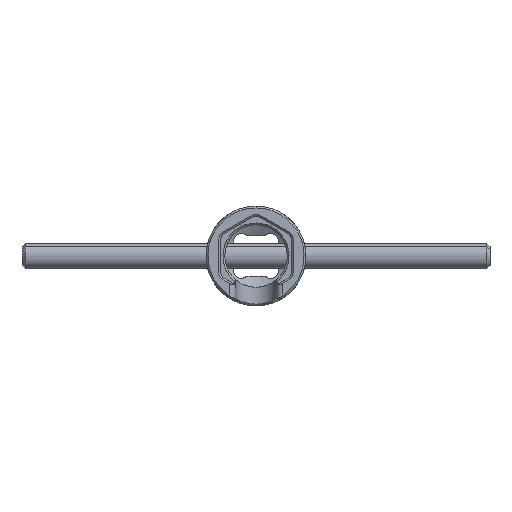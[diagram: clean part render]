
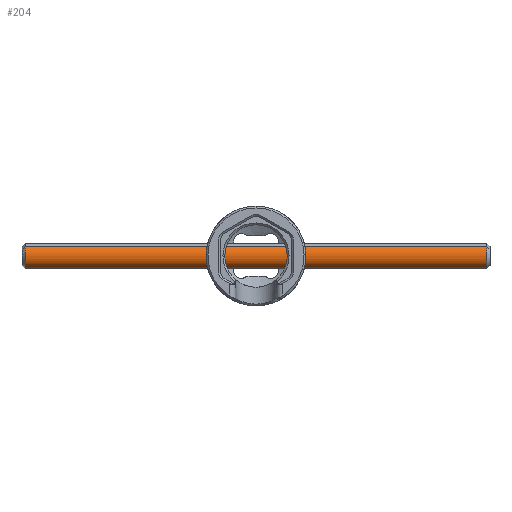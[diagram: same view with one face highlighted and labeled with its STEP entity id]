
A CAD part, front view. The second image highlights one B-rep face of the part: STEP entity #204.
In plain terms, the highlighted cylindrical face has radius 2 mm (diameter 4 mm), a partial arc.
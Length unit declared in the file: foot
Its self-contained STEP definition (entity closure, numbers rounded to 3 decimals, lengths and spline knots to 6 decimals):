
#204 = ADVANCED_FACE ( 'NONE', ( #267 ), #4916, .T. ) ;
#267 = FACE_OUTER_BOUND ( 'NONE', #781, .T. ) ;
#280 = DIRECTION ( 'NONE',  ( -1., 0., 0. ) ) ;
#781 = EDGE_LOOP ( 'NONE', ( #5484, #4373, #5178, #817 ) ) ;
#817 = ORIENTED_EDGE ( 'NONE', *, *, #3001, .T. ) ;
#1588 = CARTESIAN_POINT ( 'NONE',  ( 0.123031, 0.089008, -0.004901 ) ) ;
#1591 = DIRECTION ( 'NONE',  ( 0., 0.665, -0.747 ) ) ;
#1918 = AXIS2_PLACEMENT_3D ( 'NONE', #6282, #4525, #1591 ) ;
#2300 = EDGE_CURVE ( 'NONE', #6233, #4021, #7251, .T. ) ;
#2353 = CARTESIAN_POINT ( 'NONE',  ( 0.121391, 0.089008, -0.004901 ) ) ;
#2817 = CARTESIAN_POINT ( 'NONE',  ( 0.121391, 0.080283, 0.004901 ) ) ;
#2824 = DIRECTION ( 'NONE',  ( -1., 0., 0. ) ) ;
#3001 = EDGE_CURVE ( 'NONE', #4398, #4517, #6392, .T. ) ;
#3102 = DIRECTION ( 'NONE',  ( -1., 0., 0. ) ) ;
#3869 = DIRECTION ( 'NONE',  ( 0., 0.665, -0.747 ) ) ;
#3880 = DIRECTION ( 'NONE',  ( 0., -0.665, 0.747 ) ) ;
#3947 = DIRECTION ( 'NONE',  ( 1., 0., 0. ) ) ;
#3953 = VECTOR ( 'NONE', #2824, 3.28084 ) ;
#4021 = VERTEX_POINT ( 'NONE', #2817 ) ;
#4373 = ORIENTED_EDGE ( 'NONE', *, *, #2300, .T. ) ;
#4398 = VERTEX_POINT ( 'NONE', #6756 ) ;
#4415 = VECTOR ( 'NONE', #280, 3.28084 ) ;
#4517 = VERTEX_POINT ( 'NONE', #4556 ) ;
#4525 = DIRECTION ( 'NONE',  ( -1., 0., 0. ) ) ;
#4556 = CARTESIAN_POINT ( 'NONE',  ( -0.121391, 0.089008, -0.004901 ) ) ;
#4636 = LINE ( 'NONE', #1588, #3953 ) ;
#4916 = CYLINDRICAL_SURFACE ( 'NONE', #7014, 0.006562 ) ;
#5178 = ORIENTED_EDGE ( 'NONE', *, *, #6711, .T. ) ;
#5437 = LINE ( 'NONE', #5593, #4415 ) ;
#5484 = ORIENTED_EDGE ( 'NONE', *, *, #5948, .F. ) ;
#5593 = CARTESIAN_POINT ( 'NONE',  ( 0.123031, 0.080283, 0.004901 ) ) ;
#5948 = EDGE_CURVE ( 'NONE', #6233, #4517, #4636, .T. ) ;
#6128 = AXIS2_PLACEMENT_3D ( 'NONE', #6759, #3947, #3869 ) ;
#6233 = VERTEX_POINT ( 'NONE', #2353 ) ;
#6282 = CARTESIAN_POINT ( 'NONE',  ( 0.121391, 0.084646, 0. ) ) ;
#6392 = CIRCLE ( 'NONE', #6128, 0.006562 ) ;
#6711 = EDGE_CURVE ( 'NONE', #4021, #4398, #5437, .T. ) ;
#6756 = CARTESIAN_POINT ( 'NONE',  ( -0.121391, 0.080283, 0.004901 ) ) ;
#6759 = CARTESIAN_POINT ( 'NONE',  ( -0.121391, 0.084646, 0. ) ) ;
#7014 = AXIS2_PLACEMENT_3D ( 'NONE', #7313, #3102, #3880 ) ;
#7251 = CIRCLE ( 'NONE', #1918, 0.006562 ) ;
#7313 = CARTESIAN_POINT ( 'NONE',  ( 0.123031, 0.084646, 0. ) ) ;
